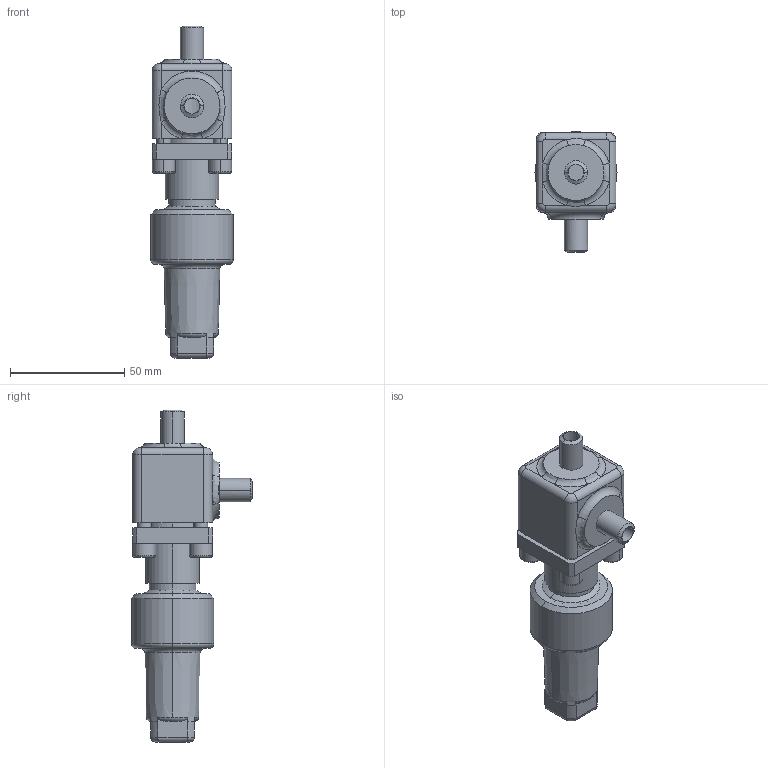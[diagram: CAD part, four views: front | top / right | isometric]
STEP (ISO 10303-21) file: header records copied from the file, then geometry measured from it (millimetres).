
FILE_DESCRIPTION (( 'STEP AP214' ), '1' );
FILE_NAME ('AVR96400-DN006_R1_PS40.STEP', '2006-05-02T07:59:24', ( 'Herr Grams' ), ( 'AWP GmbH' ), 'SwSTEP 2.0', 'SolidWorks 2002296', '' );
FILE_SCHEMA (( 'AUTOMOTIVE_DESIGN' ));
Length unit declared in the file: millimetre
Products named in the file (6): AVR96400-DN006_R1_PS40; Gehäuse96400E06-DN06_PS40_R1_Standard; Kappe96300E10_DN6-20_Standard; AVR96300E10_Deck+Schr-DN6-15_Standard; Deckel96300E10-DN6-15_PS40_Standard; Zylinderschraube-DIN912_M 6x 18
Assembly tree (8 placements, depth 3):
  AVR96400-DN006_R1_PS40
    Gehäuse96400E06-DN06_PS40_R1_Standard
    Kappe96300E10_DN6-20_Standard
    AVR96300E10_Deck+Schr-DN6-15_Standard
      Zylinderschraube-DIN912_M 6x 18  x4
      Deckel96300E10-DN6-15_PS40_Standard
Bounding box: 36 x 53 x 145.5 mm (x, y, z)
Volume: 90665.1 mm3; surface area: 30601 mm2
Topology: 7 solids, 7 shells, 231 faces, 511 edges, 315 vertices
Faces by surface type: cylinder 84, plane 82, torus 34, cone 24, bspline 7
Entity records: 10161 total; most frequent: CARTESIAN_POINT 5407, DIRECTION 929, ORIENTED_EDGE 794, EDGE_CURVE 397, AXIS2_PLACEMENT_3D 390, VERTEX_POINT 243, CIRCLE 208, EDGE_LOOP 204
